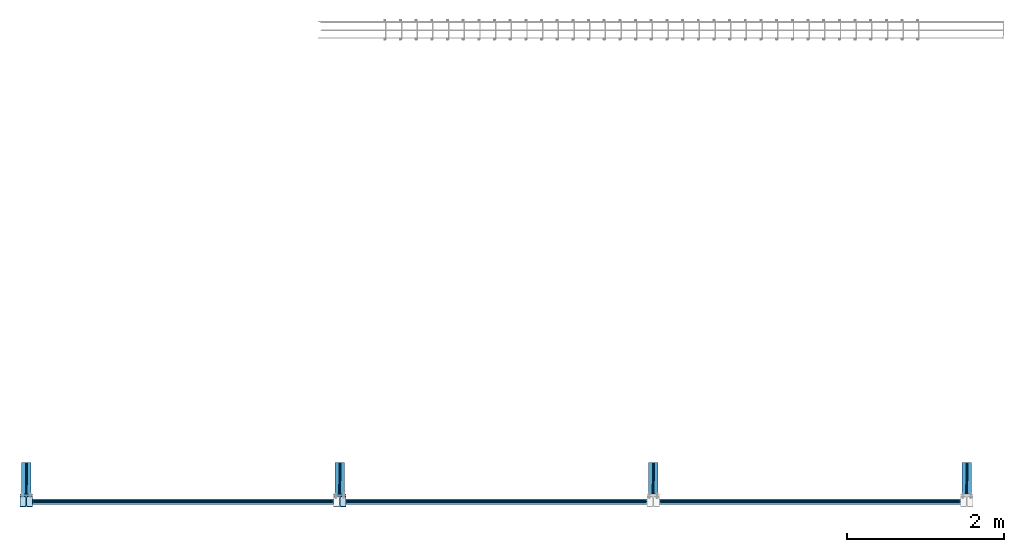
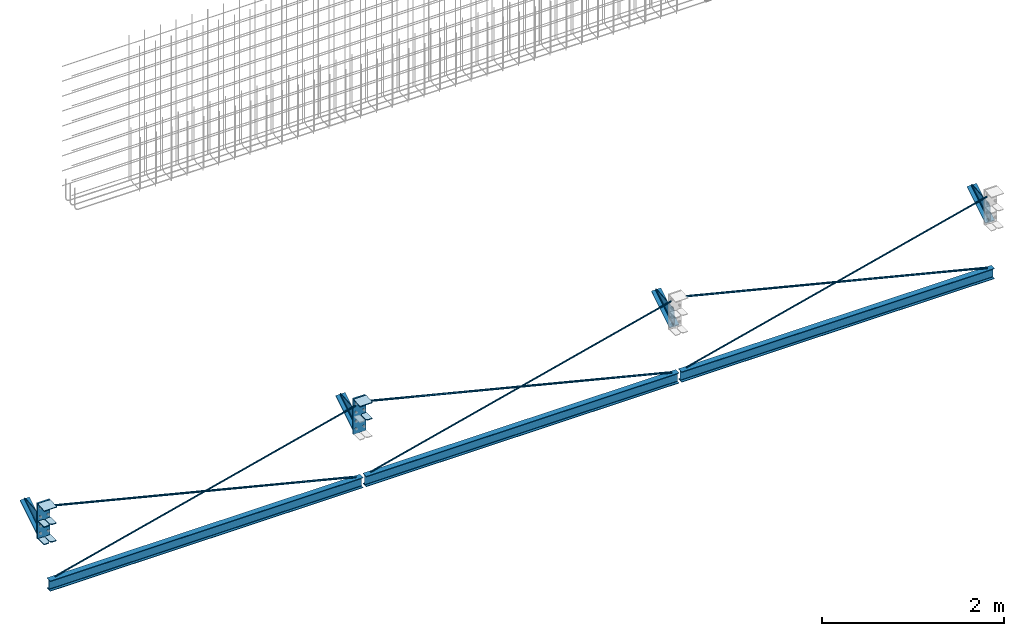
# One storey, part 1 of 21: 10 beams, 9 plates, 4 members, 30 openings.
"""IFC4X3_ADD2 building model written with IfcOpenShell, lengths in millimetres."""

from ifc_helpers import new_model, entity, si_unit, converted_unit, derived_unit, direction, frame, frame_2d, origin, origin_with_axes, origin_2d, origin_2d_with_axis, place, context, subcontext, project, spatial, polyline, circle, i_section, outline, extrude, clip, halfspace, source, transform, mapped, material, layer, layer_set, material_profile, profile_set, type_object, type_shapes, element, save


model = new_model("IFC4X3_ADD2")

# Units and contexts
model_context = context("Model", 3, precision=0.01, world=origin(), true_north=direction((6.123233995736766e-17, 1.0)))
plan_context = context("Plan", 3, precision=0.01, world=origin(), true_north=direction((6.123233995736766e-17, 1.0)))
body_context = subcontext(model_context, "Body", "Model", "MODEL_VIEW")
ifc_project = project(units=[si_unit("LENGTHUNIT", "METRE", prefix="MILLI"), converted_unit("PLANEANGLEUNIT", "DEGREE", entity("IfcPlaneAngleMeasure", 0.017453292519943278), si_unit("PLANEANGLEUNIT", "RADIAN"), dimensions=[0, 0, 0, 0, 0, 0, 0]), si_unit("AREAUNIT", "SQUARE_METRE"), si_unit("VOLUMEUNIT", "CUBIC_METRE"), derived_unit("THERMALTRANSMITTANCEUNIT", [(si_unit("MASSUNIT", "GRAM", prefix="KILO"), 1), (si_unit("THERMODYNAMICTEMPERATUREUNIT", "KELVIN"), -1), (si_unit("TIMEUNIT", "SECOND"), -3)]), derived_unit("USERDEFINED", [(si_unit("MASSUNIT", "GRAM", prefix="KILO"), 1), (si_unit("THERMODYNAMICTEMPERATUREUNIT", "KELVIN"), -1), (si_unit("TIMEUNIT", "SECOND"), -2)]), derived_unit("THERMALRESISTANCEUNIT", [(si_unit("MASSUNIT", "GRAM", prefix="KILO"), -1), (si_unit("TIMEUNIT", "SECOND"), 3), (si_unit("THERMODYNAMICTEMPERATUREUNIT", "KELVIN"), 1)]), si_unit("MASSUNIT", "GRAM", prefix="KILO"), derived_unit("MOMENTOFINERTIAUNIT", [(si_unit("LENGTHUNIT", "METRE"), 4)]), derived_unit("LINEARFORCEUNIT", [(si_unit("MASSUNIT", "GRAM", prefix="KILO"), 1), (si_unit("TIMEUNIT", "SECOND"), -2)]), derived_unit("WARPINGCONSTANTUNIT", [(si_unit("LENGTHUNIT", "METRE"), 6)]), si_unit("PRESSUREUNIT", "PASCAL"), derived_unit("MASSDENSITYUNIT", [(si_unit("MASSUNIT", "GRAM", prefix="KILO"), 1), (si_unit("LENGTHUNIT", "METRE"), -3)]), derived_unit("MODULUSOFELASTICITYUNIT", [(si_unit("MASSUNIT", "GRAM", prefix="KILO"), 1), (si_unit("TIMEUNIT", "SECOND"), -2), (si_unit("LENGTHUNIT", "METRE"), -1)]), derived_unit("THERMALEXPANSIONCOEFFICIENTUNIT", [(si_unit("THERMODYNAMICTEMPERATUREUNIT", "KELVIN"), -1)]), derived_unit("VAPORPERMEABILITYUNIT", [(si_unit("LENGTHUNIT", "METRE"), -1), (si_unit("TIMEUNIT", "SECOND"), 1)]), derived_unit("USERDEFINED", [(si_unit("MASSUNIT", "GRAM", prefix="KILO"), 1), (si_unit("TIMEUNIT", "SECOND"), -3), (si_unit("LENGTHUNIT", "METRE"), 3), (si_unit("ELECTRICCURRENTUNIT", "AMPERE"), -2)]), derived_unit("SPECIFICHEATCAPACITYUNIT", [(si_unit("THERMODYNAMICTEMPERATUREUNIT", "KELVIN"), -1), (si_unit("TIMEUNIT", "SECOND"), -2), (si_unit("LENGTHUNIT", "METRE"), 2)]), derived_unit("THERMALCONDUCTANCEUNIT", [(si_unit("MASSUNIT", "GRAM", prefix="KILO"), 1), (si_unit("THERMODYNAMICTEMPERATUREUNIT", "KELVIN"), -1), (si_unit("TIMEUNIT", "SECOND"), -3), (si_unit("LENGTHUNIT", "METRE"), 1)])], contexts=[model_context, plan_context])

# Site, building, storey
site_placement = place(None, origin())
site = spatial("IfcSite", under=ifc_project, at=site_placement, Name="Default", CompositionType="ELEMENT")
building_placement = place(site_placement, origin())
building = spatial("IfcBuilding", under=site, at=building_placement, Name="Complex structure", CompositionType="ELEMENT")
storey_placement = place(building_placement, frame((0.0, 0.0, 3000.0)))
storey = spatial("IfcBuildingStorey", under=building, at=storey_placement, Name="Level 01", CompositionType="ELEMENT", Elevation=3000.0)

# Beams
ifc_material_1 = material(Name="Metal - Steel 50-355", Category="Metal")
ifc_material_profile = material_profile(ifc_material_1, circle(Radius=10.0, at=frame_2d((-6.171566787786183e-16, -4.5021244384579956e-14), x_axis=(1.0, 0.0))), Name="RB 20")
ifc_profile_set = profile_set([ifc_material_profile], Name="RB 20")
beam_type_1 = type_object("IfcBeamType", Name="Round Bars:RB 20", PredefinedType="BEAM", material=ifc_profile_set)
shared_shape_1 = source(origin(), body_context, "Body", "SweptSolid", [
    extrude(circle(Radius=10.0, at=frame_2d((-6.171566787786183e-16, -4.5021244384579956e-14), x_axis=(1.0, 0.0))), frame((-1961.3500000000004, 0.0, 0.0), z_axis=(1.0, 0.0, 0.0), x_axis=(0.0, -1.0, 0.0)), (0.0, 0.0, 1.0), 3927.7000000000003),
])
type_shapes(beam_type_1, [shared_shape_1])
for number, where, z_axis, x_axis, name in (
    (1, (-11147.646906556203, -1282.8667039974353, 490.2985749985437), (0.24253562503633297, 0.0, 0.9701425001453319), (0.9701425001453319, 0.0, -0.24253562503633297), "Round Bars:RB 20"),
    (2, (-11142.796194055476, -1282.866703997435, 490.2985749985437), (-0.24253562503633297, 0.0, 0.9701425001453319), (-0.9701425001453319, 0.0, -0.24253562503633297), "Round Bars:RB 20"),
    (3, (-3142.796194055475, -1282.8667039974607, 490.2985749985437), (-0.24253562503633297, 0.0, 0.9701425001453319), (-0.9701425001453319, 0.0, -0.24253562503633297), "Round Bars:RB 20"),
):
    element("IfcBeam", number, at=place(storey_placement, frame(where, z_axis=z_axis, x_axis=x_axis)), inside=storey, type_object=beam_type_1, Name=name, ObjectType="Round Bars:RB 20", PredefinedType="BEAM", context=body_context, shape_type="MappedRepresentation", body=[
        mapped(shared_shape_1, transform((0.0, 0.0, 0.0), scale=1.0)),
    ])
beam_type_2 = type_object("IfcBeamType", Name="Round Bars:RB 20", PredefinedType="BEAM", material=ifc_profile_set)
shared_shape_2 = source(origin(), body_context, "Body", "SweptSolid", [
    extrude(circle(Radius=10.0, at=frame_2d((-6.021237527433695e-16, -1.6155445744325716e-14), x_axis=(1.0, 0.0))), frame((-1966.3500000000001, 0.0, 0.0), z_axis=(1.0, 0.0, 0.0), x_axis=(0.0, 1.0, 0.0)), (0.0, 0.0, 1.0), 3927.7000000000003),
])
type_shapes(beam_type_2, [shared_shape_2])
for number, where, z_axis, x_axis, name in (
    (4, (-11147.646906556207, -1282.8667039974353, 490.2985749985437), (0.24253562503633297, 0.0, 0.9701425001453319), (-0.9701425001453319, 0.0, 0.24253562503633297), "Round Bars:RB 20"),
    (5, (-3147.646906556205, -1282.866703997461, 490.2985749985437), (0.24253562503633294, 0.0, 0.9701425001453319), (-0.9701425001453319, 0.0, 0.24253562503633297), "Round Bars:RB 20"),
):
    element("IfcBeam", number, at=place(storey_placement, frame(where, z_axis=z_axis, x_axis=x_axis)), inside=storey, type_object=beam_type_2, Name=name, ObjectType="Round Bars:RB 20", PredefinedType="BEAM", context=body_context, shape_type="MappedRepresentation", body=[
        mapped(shared_shape_2, transform((0.0, 0.0, 0.0), scale=1.0)),
    ])
beam_type_3 = type_object("IfcBeamType", Name="Round Bars:RB 20", PredefinedType="BEAM", material=ifc_profile_set)
shared_shape_3 = source(origin(), body_context, "Body", "SweptSolid", [
    extrude(circle(Radius=10.0, at=frame_2d((-6.021237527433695e-16, -4.5021244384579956e-14), x_axis=(1.0, 0.0))), frame((-1966.3500000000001, 0.0, 0.0), z_axis=(1.0, 0.0, 0.0), x_axis=(0.0, -1.0, 0.0)), (0.0, 0.0, 1.0), 3927.7000000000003),
])
type_shapes(beam_type_3, [shared_shape_3])
beam_1_placement = place(storey_placement, frame((-7142.796194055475, -1282.866703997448, 490.2985749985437), z_axis=(-0.24253562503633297, 0.0, 0.9701425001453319), x_axis=(0.9701425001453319, 0.0, 0.24253562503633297)))
element("IfcBeam", 6, at=beam_1_placement, inside=storey, type_object=beam_type_3, Name="Round Bars:RB 20", ObjectType="Round Bars:RB 20", PredefinedType="BEAM", context=body_context, shape_type="MappedRepresentation", body=[
    mapped(shared_shape_3, transform((0.0, 0.0, 0.0), scale=1.0)),
])
beam_type_4 = type_object("IfcBeamType", Name="Round Bars:RB 20", PredefinedType="BEAM", material=ifc_profile_set)
shared_shape_4 = source(origin(), body_context, "Body", "SweptSolid", [
    extrude(circle(Radius=10.0, at=frame_2d((-6.171566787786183e-16, -1.6155445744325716e-14), x_axis=(1.0, 0.0))), frame((-1961.3500000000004, 0.0, 0.0), z_axis=(1.0, 0.0, 0.0), x_axis=(0.0, 1.0, 0.0)), (0.0, 0.0, 1.0), 3927.7000000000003),
])
type_shapes(beam_type_4, [shared_shape_4])
beam_2_placement = place(storey_placement, frame((-7147.646906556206, -1282.866703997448, 490.2985749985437), z_axis=(0.24253562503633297, 0.0, 0.9701425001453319), x_axis=(0.9701425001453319, 0.0, -0.24253562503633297)))
element("IfcBeam", 7, at=beam_2_placement, inside=storey, type_object=beam_type_4, Name="Round Bars:RB 20", ObjectType="Round Bars:RB 20", PredefinedType="BEAM", context=body_context, shape_type="MappedRepresentation", body=[
    mapped(shared_shape_4, transform((0.0, 0.0, 0.0), scale=1.0)),
])
ifc_material_2 = material(Name="Structural Steel - S235", Category="Metal")
beam_type_5 = type_object("IfcBeamType", Name="IPE:IPE140", PredefinedType="BEAM")
for number, where, z_axis, x_axis, name in (
    (8, (-13364.166151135, -1282.866703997, -70.0), (-1.0, 0.0, 0.0), (0.0, -1.0, 0.0), "IPE:IPE140"),
    (9, (-9364.166151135, -1282.866703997, -70.0), (-1.0, 0.0, 0.0), (0.0, -1.0, 0.0), "IPE:IPE140"),
    (10, (-5364.166151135, -1282.866703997, -70.0), (-1.0, 0.0, 0.0), (0.0, -1.0, 0.0), "IPE:IPE140"),
):
    element("IfcBeam", number, at=place(storey_placement, frame(where, z_axis=z_axis, x_axis=x_axis)), inside=storey, type_object=beam_type_5, material=ifc_material_2, Name=name, ObjectType="IPE140", context=model_context, shape_type="Clipping", body=[
        clip(clip(extrude(i_section(OverallWidth=73.0, OverallDepth=140.0, WebThickness=4.7, FlangeThickness=6.9, FilletRadius=7.0, at=origin_2d()), origin(), (0.0, 0.0, -1.0), 4437.889201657), halfspace(frame((-1282.866703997, -2930.0, -236.945600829), z_axis=(0.0, 0.0, -1.0), x_axis=(-1.0, 0.0, 0.0)), True)), halfspace(frame((-1282.866703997, -2930.0, -4200.943600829), z_axis=(0.0, 0.0, 1.0), x_axis=(1.0, 0.0, 0.0)), True)),
    ])

# Member, opening
member_1_placement = place(storey_placement, frame((-13145.221550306, -1503.888356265, 478.09637462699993), z_axis=(0.0, -0.8518332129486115, -0.5238131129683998), x_axis=(1.0, 0.0, 0.0)))
member_1 = element("IfcMember", 11, at=member_1_placement, inside=storey, Name="Haunch", ObjectType="Haunch", context=model_context, shape_type="Clipping", body=[
    clip(clip(clip(extrude(i_section(OverallWidth=120.0, OverallDepth=240.0, WebThickness=6.2, FlangeThickness=9.8, FilletRadius=15.0, at=origin_2d()), origin(), (0.0, 0.0, -1.0), 1380.5635005), halfspace(frame((13145.221550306, -3128.818631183, 1551.822066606), z_axis=(0.0, -0.523813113, -0.851833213), x_axis=(-1.0, 0.0, 0.0)), True)), halfspace(frame((13145.221550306, -312.382970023, -1197.778161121), z_axis=(0.0, -0.892391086, 0.451262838), x_axis=(-1.0, 0.0, 0.0)), True)), halfspace(frame((13145.221550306, -3338.342828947, 1211.090485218), z_axis=(0.0, 0.523813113, 0.851833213), x_axis=(1.0, 0.0, 0.0)), True)),
])
opening_1_placement = place(member_1_placement, frame((160.1, -120.0, -298.373055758), z_axis=(-1.0, 0.0, 0.0), x_axis=(0.0, 0.523813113, 0.851833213)))
element("IfcOpeningElement", 12, at=opening_1_placement, cuts=member_1, ObjectType="Opening", context=model_context, shape_type="SweptSolid", body=[
    extrude(outline(polyline([(0.001, 235.000920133), (-18.986668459, 236.583225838), (0.001, 215.947436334), (0.001, 235.000920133)])), origin(), (0.0, 0.0, 1.0), 320.2),
])

member_2_placement = place(storey_placement, frame((-9145.526350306, -1503.888356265, 478.09637462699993), z_axis=(0.0, -0.8518332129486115, -0.5238131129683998), x_axis=(1.0, 0.0, 0.0)))
member_2 = element("IfcMember", 13, at=member_2_placement, inside=storey, Name="Haunch", ObjectType="Haunch", context=model_context, shape_type="Clipping", body=[
    clip(clip(clip(extrude(i_section(OverallWidth=120.0, OverallDepth=240.0, WebThickness=6.2, FlangeThickness=9.8, FilletRadius=15.0, at=origin_2d()), origin(), (0.0, 0.0, -1.0), 1380.5635005), halfspace(frame((9145.526350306, -3128.818631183, 1551.822066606), z_axis=(0.0, -0.523813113, -0.851833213), x_axis=(-1.0, 0.0, 0.0)), True)), halfspace(frame((9145.526350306, -312.382970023, -1197.778161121), z_axis=(0.0, -0.892391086, 0.451262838), x_axis=(-1.0, 0.0, 0.0)), True)), halfspace(frame((9145.526350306, -3338.342828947, 1211.090485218), z_axis=(0.0, 0.523813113, 0.851833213), x_axis=(1.0, 0.0, 0.0)), True)),
])
opening_2_placement = place(member_2_placement, frame((160.1, -120.0, -298.373055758), z_axis=(-1.0, 0.0, 0.0), x_axis=(0.0, 0.523813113, 0.851833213)))
element("IfcOpeningElement", 14, at=opening_2_placement, cuts=member_2, ObjectType="Opening", context=model_context, shape_type="SweptSolid", body=[
    extrude(outline(polyline([(0.001, 235.000920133), (-18.986668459, 236.583225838), (0.001, 215.947436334), (0.001, 235.000920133)])), origin(), (0.0, 0.0, 1.0), 320.2),
])

member_3_placement = place(storey_placement, frame((-5145.526350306, -1503.888356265, 478.09637462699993), z_axis=(0.0, -0.8518332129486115, -0.5238131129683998), x_axis=(1.0, 0.0, 0.0)))
member_3 = element("IfcMember", 15, at=member_3_placement, inside=storey, Name="Haunch", ObjectType="Haunch", context=model_context, shape_type="Clipping", body=[
    clip(clip(clip(extrude(i_section(OverallWidth=120.0, OverallDepth=240.0, WebThickness=6.2, FlangeThickness=9.8, FilletRadius=15.0, at=origin_2d()), origin(), (0.0, 0.0, -1.0), 1380.5635005), halfspace(frame((5145.526350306, -3128.818631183, 1551.822066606), z_axis=(0.0, -0.523813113, -0.851833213), x_axis=(-1.0, 0.0, 0.0)), True)), halfspace(frame((5145.526350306, -312.382970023, -1197.778161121), z_axis=(0.0, -0.892391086, 0.451262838), x_axis=(-1.0, 0.0, 0.0)), True)), halfspace(frame((5145.526350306, -3338.342828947, 1211.090485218), z_axis=(0.0, 0.523813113, 0.851833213), x_axis=(1.0, 0.0, 0.0)), True)),
])
opening_3_placement = place(member_3_placement, frame((160.1, -120.0, -298.373055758), z_axis=(-1.0, 0.0, 0.0), x_axis=(0.0, 0.523813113, 0.851833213)))
element("IfcOpeningElement", 16, at=opening_3_placement, cuts=member_3, ObjectType="Opening", context=model_context, shape_type="SweptSolid", body=[
    extrude(outline(polyline([(0.001, 235.000920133), (-18.986668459, 236.583225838), (0.001, 215.947436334), (0.001, 235.000920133)])), origin(), (0.0, 0.0, 1.0), 320.2),
])

member_4_placement = place(storey_placement, frame((-1145.526350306, -1503.888356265, 478.09637462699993), z_axis=(0.0, -0.8518332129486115, -0.5238131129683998), x_axis=(1.0, 0.0, 0.0)))
member_4 = element("IfcMember", 17, at=member_4_placement, inside=storey, Name="Haunch", ObjectType="Haunch", context=model_context, shape_type="Clipping", body=[
    clip(clip(clip(extrude(i_section(OverallWidth=120.0, OverallDepth=240.0, WebThickness=6.2, FlangeThickness=9.8, FilletRadius=15.0, at=origin_2d()), origin(), (0.0, 0.0, -1.0), 1380.5635005), halfspace(frame((1145.526350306, -3128.818631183, 1551.822066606), z_axis=(0.0, -0.523813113, -0.851833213), x_axis=(-1.0, 0.0, 0.0)), True)), halfspace(frame((1145.526350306, -312.382970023, -1197.778161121), z_axis=(0.0, -0.892391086, 0.451262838), x_axis=(-1.0, 0.0, 0.0)), True)), halfspace(frame((1145.526350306, -3338.342828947, 1211.090485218), z_axis=(0.0, 0.523813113, 0.851833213), x_axis=(1.0, 0.0, 0.0)), True)),
])
opening_4_placement = place(member_4_placement, frame((160.1, -120.0, -298.373055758), z_axis=(-1.0, 0.0, 0.0), x_axis=(0.0, 0.523813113, 0.851833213)))
element("IfcOpeningElement", 18, at=opening_4_placement, cuts=member_4, ObjectType="Opening", context=model_context, shape_type="SweptSolid", body=[
    extrude(outline(polyline([(0.001, 235.000920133), (-18.986668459, 236.583225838), (0.001, 215.947436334), (0.001, 235.000920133)])), origin(), (0.0, 0.0, 1.0), 320.2),
])

# Plate
ifc_material_3 = material(Name="Metal Stud Layer")
ifc_layer_1 = layer(ifc_material_3, 10.0)
ifc_layer_set_1 = layer_set([ifc_layer_1], Name="Metal Stud Layer")
plate_1_placement = place(storey_placement, frame((-13065.221550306, -1211.849432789, 995.883443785), z_axis=(0.0, -0.08304548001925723, 0.9965457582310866), x_axis=(-1.0, 0.0, 0.0)))
element("IfcPlate", 19, at=plate_1_placement, inside=storey, material=ifc_layer_set_1, Name="Coverplate", ObjectType="Coverplate", context=model_context, shape_type="SweptSolid", body=[
    extrude(outline(polyline([(0.0, 0.0), (160.0, 0.0), (160.0, 142.526864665), (0.0, 142.526864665), (0.0, 0.0)])), origin_with_axes(), (0.0, 0.0, 1.0), 10.0),
])

# Plate, openings
ifc_layer_2 = layer(ifc_material_3, 20.0)
ifc_layer_set_2 = layer_set([ifc_layer_2], Name="Metal Stud Layer")
plate_2_placement = place(storey_placement, frame((-13065.221550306, -1186.866703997, 1003.0), z_axis=(0.0, -1.0, 0.0), x_axis=(-1.0, 0.0, 0.0)))
plate_2 = element("IfcPlate", 20, at=plate_2_placement, inside=storey, material=ifc_layer_set_2, Name="Endplate", ObjectType="Endplate", context=model_context, shape_type="SweptSolid", body=[
    extrude(outline(polyline([(0.0, 0.0), (160.0, 0.0), (160.0, 475.831891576), (0.0, 475.831891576), (0.0, 0.0)])), origin_with_axes(), (0.0, 0.0, 1.0), 20.0),
])
opening_5_placement = place(plate_2_placement, frame((30.5, 60.0, 20.5), z_axis=(0.0, 0.0, -1.0), x_axis=(1.0, 0.0, 0.0)))
element("IfcOpeningElement", 21, at=opening_5_placement, cuts=plate_2, ObjectType="Opening", context=model_context, shape_type="SweptSolid", body=[
    extrude(circle(Radius=8.79475, at=origin_2d_with_axis()), origin(), (0.0, 0.0, 1.0), 21.0),
])
opening_6_placement = place(plate_2_placement, frame((129.5, 300.0, 20.5), z_axis=(0.0, 0.0, -1.0), x_axis=(1.0, 0.0, 0.0)))
element("IfcOpeningElement", 22, at=opening_6_placement, cuts=plate_2, ObjectType="Opening", context=model_context, shape_type="SweptSolid", body=[
    extrude(circle(Radius=8.79475, at=origin_2d_with_axis()), origin(), (0.0, 0.0, 1.0), 21.0),
])
opening_7_placement = place(plate_2_placement, frame((129.5, 180.0, 20.5), z_axis=(0.0, 0.0, -1.0), x_axis=(1.0, 0.0, 0.0)))
element("IfcOpeningElement", 23, at=opening_7_placement, cuts=plate_2, ObjectType="Opening", context=model_context, shape_type="SweptSolid", body=[
    extrude(circle(Radius=8.79475, at=origin_2d_with_axis()), origin(), (0.0, 0.0, 1.0), 21.0),
])
opening_8_placement = place(plate_2_placement, frame((30.5, 180.0, 20.5), z_axis=(0.0, 0.0, -1.0), x_axis=(1.0, 0.0, 0.0)))
element("IfcOpeningElement", 24, at=opening_8_placement, cuts=plate_2, ObjectType="Opening", context=model_context, shape_type="SweptSolid", body=[
    extrude(circle(Radius=8.79475, at=origin_2d_with_axis()), origin(), (0.0, 0.0, 1.0), 21.0),
])
opening_9_placement = place(plate_2_placement, frame((129.5, 60.0, 20.5), z_axis=(0.0, 0.0, -1.0), x_axis=(1.0, 0.0, 0.0)))
element("IfcOpeningElement", 25, at=opening_9_placement, cuts=plate_2, ObjectType="Opening", context=model_context, shape_type="SweptSolid", body=[
    extrude(circle(Radius=8.79475, at=origin_2d_with_axis()), origin(), (0.0, 0.0, 1.0), 21.0),
])
opening_10_placement = place(plate_2_placement, frame((30.5, 300.0, 20.5), z_axis=(0.0, 0.0, -1.0), x_axis=(1.0, 0.0, 0.0)))
element("IfcOpeningElement", 26, at=opening_10_placement, cuts=plate_2, ObjectType="Opening", context=model_context, shape_type="SweptSolid", body=[
    extrude(circle(Radius=8.79475, at=origin_2d_with_axis()), origin(), (0.0, 0.0, 1.0), 21.0),
])
opening_11_placement = place(plate_2_placement, frame((30.5, 400.0, 20.5), z_axis=(0.0, 0.0, -1.0), x_axis=(1.0, 0.0, 0.0)))
element("IfcOpeningElement", 27, at=opening_11_placement, cuts=plate_2, ObjectType="Opening", context=model_context, shape_type="SweptSolid", body=[
    extrude(circle(Radius=8.79475, at=origin_2d_with_axis()), origin(), (0.0, 0.0, 1.0), 21.0),
])
opening_12_placement = place(plate_2_placement, frame((129.5, 400.0, 20.5), z_axis=(0.0, 0.0, -1.0), x_axis=(1.0, 0.0, 0.0)))
element("IfcOpeningElement", 28, at=opening_12_placement, cuts=plate_2, ObjectType="Opening", context=model_context, shape_type="SweptSolid", body=[
    extrude(circle(Radius=8.79475, at=origin_2d_with_axis()), origin(), (0.0, 0.0, 1.0), 21.0),
])

plate_3_placement = place(storey_placement, frame((-13142.221550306, -1217.454203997, 777.1681084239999), z_axis=(0.0, 0.0, -1.0), x_axis=(1.0, 0.0, 0.0)))
plate_3 = element("IfcPlate", 29, at=plate_3_placement, inside=storey, material=ifc_layer_set_1, Name="Stiffener#2", ObjectType="Stiffener#2", context=model_context, shape_type="SweptSolid", body=[
    extrude(outline(polyline([(0.0, 0.0), (76.2, 0.0), (76.2, 130.825), (0.0, 130.825), (0.0, 0.0)])), origin_with_axes(), (0.0, 0.0, 1.0), 10.0),
])
opening_13_placement = place(plate_3_placement, frame((0.0, 0.0, -0.01), z_axis=(0.0, 0.0, 1.0), x_axis=(1.0, 0.0, 0.0)))
element("IfcOpeningElement", 30, at=opening_13_placement, cuts=plate_3, ObjectType="Opening", context=model_context, shape_type="SweptSolid", body=[
    extrude(outline(polyline([(0.0, 130.825), (0.0, 111.775), (19.05, 130.825), (0.0, 130.825)])), origin(), (0.0, 0.0, 1.0), 10.02),
])
opening_14_placement = place(plate_3_placement, frame((0.0, 0.0, -0.01), z_axis=(0.0, 0.0, 1.0), x_axis=(1.0, 0.0, 0.0)))
element("IfcOpeningElement", 31, at=opening_14_placement, cuts=plate_3, ObjectType="Opening", context=model_context, shape_type="SweptSolid", body=[
    extrude(outline(polyline([(0.0, 0.0), (19.05, 0.0), (0.0, 19.05), (0.0, 0.0)])), origin(), (0.0, 0.0, 1.0), 10.02),
])

plate_4_placement = place(storey_placement, frame((-13224.421550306, -1217.454203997, 777.1681084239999), z_axis=(0.0, 0.0, -1.0), x_axis=(1.0, 0.0, 0.0)))
plate_4 = element("IfcPlate", 32, at=plate_4_placement, inside=storey, material=ifc_layer_set_1, Name="Stiffener#2", ObjectType="Stiffener#2", context=model_context, shape_type="SweptSolid", body=[
    extrude(outline(polyline([(0.0, 0.0), (76.2, 0.0), (76.2, 130.825), (0.0, 130.825), (0.0, 0.0)])), origin_with_axes(), (0.0, 0.0, 1.0), 10.0),
])
opening_15_placement = place(plate_4_placement, frame((0.0, 0.0, -0.01), z_axis=(0.0, 0.0, 1.0), x_axis=(1.0, 0.0, 0.0)))
element("IfcOpeningElement", 33, at=opening_15_placement, cuts=plate_4, ObjectType="Opening", context=model_context, shape_type="SweptSolid", body=[
    extrude(outline(polyline([(76.2, 130.825), (57.15, 130.825), (76.2, 111.775), (76.2, 130.825)])), origin(), (0.0, 0.0, 1.0), 10.02),
])
opening_16_placement = place(plate_4_placement, frame((0.0, 0.0, -0.01), z_axis=(0.0, 0.0, 1.0), x_axis=(1.0, 0.0, 0.0)))
element("IfcOpeningElement", 34, at=opening_16_placement, cuts=plate_4, ObjectType="Opening", context=model_context, shape_type="SweptSolid", body=[
    extrude(outline(polyline([(76.2, 0.0), (76.2, 19.05), (57.15, 0.0), (76.2, 0.0)])), origin(), (0.0, 0.0, 1.0), 10.02),
])

plate_5_placement = place(storey_placement, frame((-13142.221550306, -1217.454203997, 542.1681084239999), z_axis=(0.0, 0.0, -1.0), x_axis=(1.0, 0.0, 0.0)))
plate_5 = element("IfcPlate", 35, at=plate_5_placement, inside=storey, material=ifc_layer_set_1, Name="Stiffener#3", ObjectType="Stiffener#3", context=model_context, shape_type="SweptSolid", body=[
    extrude(outline(polyline([(0.0, 0.0), (76.2, 0.0), (76.2, 130.825), (0.0, 130.825), (0.0, 0.0)])), origin_with_axes(), (0.0, 0.0, 1.0), 10.0),
])
opening_17_placement = place(plate_5_placement, frame((0.0, 0.0, -0.01), z_axis=(0.0, 0.0, 1.0), x_axis=(1.0, 0.0, 0.0)))
element("IfcOpeningElement", 36, at=opening_17_placement, cuts=plate_5, ObjectType="Opening", context=model_context, shape_type="SweptSolid", body=[
    extrude(outline(polyline([(0.0, 130.825), (0.0, 111.775), (19.05, 130.825), (0.0, 130.825)])), origin(), (0.0, 0.0, 1.0), 10.02),
])
opening_18_placement = place(plate_5_placement, frame((0.0, 0.0, -0.01), z_axis=(0.0, 0.0, 1.0), x_axis=(1.0, 0.0, 0.0)))
element("IfcOpeningElement", 37, at=opening_18_placement, cuts=plate_5, ObjectType="Opening", context=model_context, shape_type="SweptSolid", body=[
    extrude(outline(polyline([(0.0, 0.0), (19.05, 0.0), (0.0, 19.05), (0.0, 0.0)])), origin(), (0.0, 0.0, 1.0), 10.02),
])

plate_6_placement = place(storey_placement, frame((-13224.421550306, -1217.454203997, 542.1681084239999), z_axis=(0.0, 0.0, -1.0), x_axis=(1.0, 0.0, 0.0)))
plate_6 = element("IfcPlate", 38, at=plate_6_placement, inside=storey, material=ifc_layer_set_1, Name="Stiffener#14", ObjectType="Stiffener#14", context=model_context, shape_type="SweptSolid", body=[
    extrude(outline(polyline([(0.0, 0.0), (76.2, 0.0), (76.2, 130.825), (0.0, 130.825), (0.0, 0.0)])), origin_with_axes(), (0.0, 0.0, 1.0), 10.0),
])
opening_19_placement = place(plate_6_placement, frame((0.0, 0.0, -0.01), z_axis=(0.0, 0.0, 1.0), x_axis=(1.0, 0.0, 0.0)))
element("IfcOpeningElement", 39, at=opening_19_placement, cuts=plate_6, ObjectType="Opening", context=model_context, shape_type="SweptSolid", body=[
    extrude(outline(polyline([(76.2, 130.825), (57.15, 130.825), (76.2, 111.775), (76.2, 130.825)])), origin(), (0.0, 0.0, 1.0), 10.02),
])
opening_20_placement = place(plate_6_placement, frame((0.0, 0.0, -0.01), z_axis=(0.0, 0.0, 1.0), x_axis=(1.0, 0.0, 0.0)))
element("IfcOpeningElement", 40, at=opening_20_placement, cuts=plate_6, ObjectType="Opening", context=model_context, shape_type="SweptSolid", body=[
    extrude(outline(polyline([(76.2, 0.0), (76.2, 19.05), (57.15, 0.0), (76.2, 0.0)])), origin(), (0.0, 0.0, 1.0), 10.02),
])

# Plate
plate_7_placement = place(storey_placement, frame((-9065.221550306, -1211.849432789, 995.883443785), z_axis=(0.0, -0.08304548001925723, 0.9965457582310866), x_axis=(-1.0, 0.0, 0.0)))
element("IfcPlate", 41, at=plate_7_placement, inside=storey, material=ifc_layer_set_1, Name="Coverplate", ObjectType="Coverplate", context=model_context, shape_type="SweptSolid", body=[
    extrude(outline(polyline([(0.0, 0.0), (160.0, 0.0), (160.0, 142.526864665), (0.0, 142.526864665), (0.0, 0.0)])), origin_with_axes(), (0.0, 0.0, 1.0), 10.0),
])

# Plate, openings
plate_8_placement = place(storey_placement, frame((-9065.526350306, -1186.866703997, 1003.0), z_axis=(0.0, -1.0, 0.0), x_axis=(-1.0, 0.0, 0.0)))
plate_8 = element("IfcPlate", 42, at=plate_8_placement, inside=storey, material=ifc_layer_set_2, Name="Endplate", ObjectType="Endplate", context=model_context, shape_type="SweptSolid", body=[
    extrude(outline(polyline([(0.0, 0.0), (160.0, 0.0), (160.0, 475.831891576), (0.0, 475.831891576), (0.0, 0.0)])), origin_with_axes(), (0.0, 0.0, 1.0), 20.0),
])
opening_21_placement = place(plate_8_placement, frame((129.5, 180.0, 20.5), z_axis=(0.0, 0.0, -1.0), x_axis=(1.0, 0.0, 0.0)))
element("IfcOpeningElement", 43, at=opening_21_placement, cuts=plate_8, ObjectType="Opening", context=model_context, shape_type="SweptSolid", body=[
    extrude(circle(Radius=8.79475, at=origin_2d_with_axis()), origin(), (0.0, 0.0, 1.0), 21.0),
])
opening_22_placement = place(plate_8_placement, frame((129.5, 60.0, 20.5), z_axis=(0.0, 0.0, -1.0), x_axis=(1.0, 0.0, 0.0)))
element("IfcOpeningElement", 44, at=opening_22_placement, cuts=plate_8, ObjectType="Opening", context=model_context, shape_type="SweptSolid", body=[
    extrude(circle(Radius=8.79475, at=origin_2d_with_axis()), origin(), (0.0, 0.0, 1.0), 21.0),
])
opening_23_placement = place(plate_8_placement, frame((129.5, 400.0, 20.5), z_axis=(0.0, 0.0, -1.0), x_axis=(1.0, 0.0, 0.0)))
element("IfcOpeningElement", 45, at=opening_23_placement, cuts=plate_8, ObjectType="Opening", context=model_context, shape_type="SweptSolid", body=[
    extrude(circle(Radius=8.79475, at=origin_2d_with_axis()), origin(), (0.0, 0.0, 1.0), 21.0),
])
opening_24_placement = place(plate_8_placement, frame((30.5, 300.0, 20.5), z_axis=(0.0, 0.0, -1.0), x_axis=(1.0, 0.0, 0.0)))
element("IfcOpeningElement", 46, at=opening_24_placement, cuts=plate_8, ObjectType="Opening", context=model_context, shape_type="SweptSolid", body=[
    extrude(circle(Radius=8.79475, at=origin_2d_with_axis()), origin(), (0.0, 0.0, 1.0), 21.0),
])
opening_25_placement = place(plate_8_placement, frame((30.5, 60.0, 20.5), z_axis=(0.0, 0.0, -1.0), x_axis=(1.0, 0.0, 0.0)))
element("IfcOpeningElement", 47, at=opening_25_placement, cuts=plate_8, ObjectType="Opening", context=model_context, shape_type="SweptSolid", body=[
    extrude(circle(Radius=8.79475, at=origin_2d_with_axis()), origin(), (0.0, 0.0, 1.0), 21.0),
])
opening_26_placement = place(plate_8_placement, frame((30.5, 180.0, 20.5), z_axis=(0.0, 0.0, -1.0), x_axis=(1.0, 0.0, 0.0)))
element("IfcOpeningElement", 48, at=opening_26_placement, cuts=plate_8, ObjectType="Opening", context=model_context, shape_type="SweptSolid", body=[
    extrude(circle(Radius=8.79475, at=origin_2d_with_axis()), origin(), (0.0, 0.0, 1.0), 21.0),
])
opening_27_placement = place(plate_8_placement, frame((30.5, 400.0, 20.5), z_axis=(0.0, 0.0, -1.0), x_axis=(1.0, 0.0, 0.0)))
element("IfcOpeningElement", 49, at=opening_27_placement, cuts=plate_8, ObjectType="Opening", context=model_context, shape_type="SweptSolid", body=[
    extrude(circle(Radius=8.79475, at=origin_2d_with_axis()), origin(), (0.0, 0.0, 1.0), 21.0),
])
opening_28_placement = place(plate_8_placement, frame((129.5, 300.0, 20.5), z_axis=(0.0, 0.0, -1.0), x_axis=(1.0, 0.0, 0.0)))
element("IfcOpeningElement", 50, at=opening_28_placement, cuts=plate_8, ObjectType="Opening", context=model_context, shape_type="SweptSolid", body=[
    extrude(circle(Radius=8.79475, at=origin_2d_with_axis()), origin(), (0.0, 0.0, 1.0), 21.0),
])

plate_9_placement = place(storey_placement, frame((-9142.221550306, -1217.454203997, 777.1681084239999), z_axis=(0.0, 0.0, -1.0), x_axis=(1.0, 0.0, 0.0)))
plate_9 = element("IfcPlate", 51, at=plate_9_placement, inside=storey, material=ifc_layer_set_1, Name="Stiffener#2", ObjectType="Stiffener#2", context=model_context, shape_type="SweptSolid", body=[
    extrude(outline(polyline([(0.0, 0.0), (76.2, 0.0), (76.2, 130.825), (0.0, 130.825), (0.0, 0.0)])), origin_with_axes(), (0.0, 0.0, 1.0), 10.0),
])
opening_29_placement = place(plate_9_placement, frame((0.0, 0.0, -0.01), z_axis=(0.0, 0.0, 1.0), x_axis=(1.0, 0.0, 0.0)))
element("IfcOpeningElement", 52, at=opening_29_placement, cuts=plate_9, ObjectType="Opening", context=model_context, shape_type="SweptSolid", body=[
    extrude(outline(polyline([(0.0, 130.825), (0.0, 111.775), (19.05, 130.825), (0.0, 130.825)])), origin(), (0.0, 0.0, 1.0), 10.02),
])
opening_30_placement = place(plate_9_placement, frame((0.0, 0.0, -0.01), z_axis=(0.0, 0.0, 1.0), x_axis=(1.0, 0.0, 0.0)))
element("IfcOpeningElement", 53, at=opening_30_placement, cuts=plate_9, ObjectType="Opening", context=model_context, shape_type="SweptSolid", body=[
    extrude(outline(polyline([(0.0, 0.0), (19.05, 0.0), (0.0, 19.05), (0.0, 0.0)])), origin(), (0.0, 0.0, 1.0), 10.02),
])

save(model, "model.ifc")
